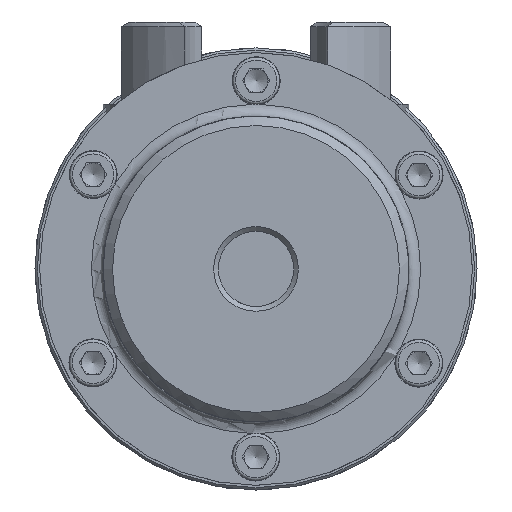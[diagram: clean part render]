
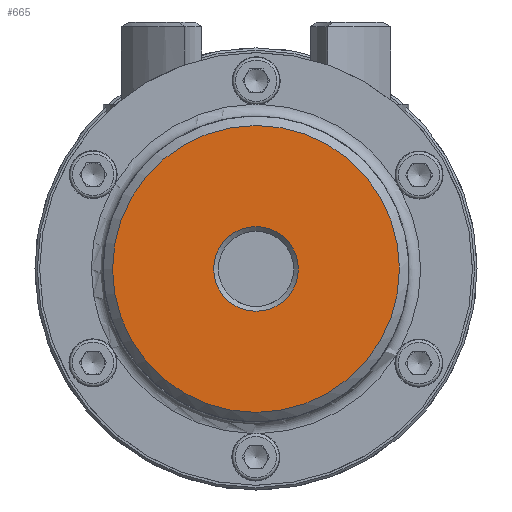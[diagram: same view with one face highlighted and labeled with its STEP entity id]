
A CAD part, left-side view. The second image highlights one B-rep face of the part: STEP entity #665.
In plain terms, the highlighted planar face has unit normal (-1, 0, 0) as drawn and (0, 0, -1) by its records, which use the part's own axes.
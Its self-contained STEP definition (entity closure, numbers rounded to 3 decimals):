
#665 = ADVANCED_FACE( '', ( #1375, #1376 ), #1377, .T. );
#1375 = FACE_OUTER_BOUND( '', #2307, .T. );
#1376 = FACE_BOUND( '', #2308, .T. );
#1377 = PLANE( '', #2309 );
#2307 = EDGE_LOOP( '', ( #4100 ) );
#2308 = EDGE_LOOP( '', ( #4101 ) );
#2309 = AXIS2_PLACEMENT_3D( '', #4102, #4103, #4104 );
#4100 = ORIENTED_EDGE( '', *, *, #5720, .T. );
#4101 = ORIENTED_EDGE( '', *, *, #5697, .T. );
#4102 = CARTESIAN_POINT( '', ( 0., 0., 0. ) );
#4103 = DIRECTION( '', ( 0., 0., -1. ) );
#4104 = DIRECTION( '', ( 0., -1., 0. ) );
#5697 = EDGE_CURVE( '', #6742, #6742, #6743, .F. );
#5720 = EDGE_CURVE( '', #6775, #6775, #6776, .T. );
#6742 = VERTEX_POINT( '', #8890 );
#6743 = CIRCLE( '', #8891, 9. );
#6775 = VERTEX_POINT( '', #8964 );
#6776 = CIRCLE( '', #8965, 30.5 );
#8890 = CARTESIAN_POINT( '', ( -9., 0., 0. ) );
#8891 = AXIS2_PLACEMENT_3D( '', #10599, #10600, #10601 );
#8964 = CARTESIAN_POINT( '', ( -30.5, 0., 0. ) );
#8965 = AXIS2_PLACEMENT_3D( '', #10641, #10642, #10643 );
#10599 = CARTESIAN_POINT( '', ( 0., 0., 0. ) );
#10600 = DIRECTION( '', ( 0., 0., -1. ) );
#10601 = DIRECTION( '', ( -1., 0., 0. ) );
#10641 = CARTESIAN_POINT( '', ( 0., 0., 0. ) );
#10642 = DIRECTION( '', ( 0., 0., -1. ) );
#10643 = DIRECTION( '', ( -1., 0., 0. ) );
